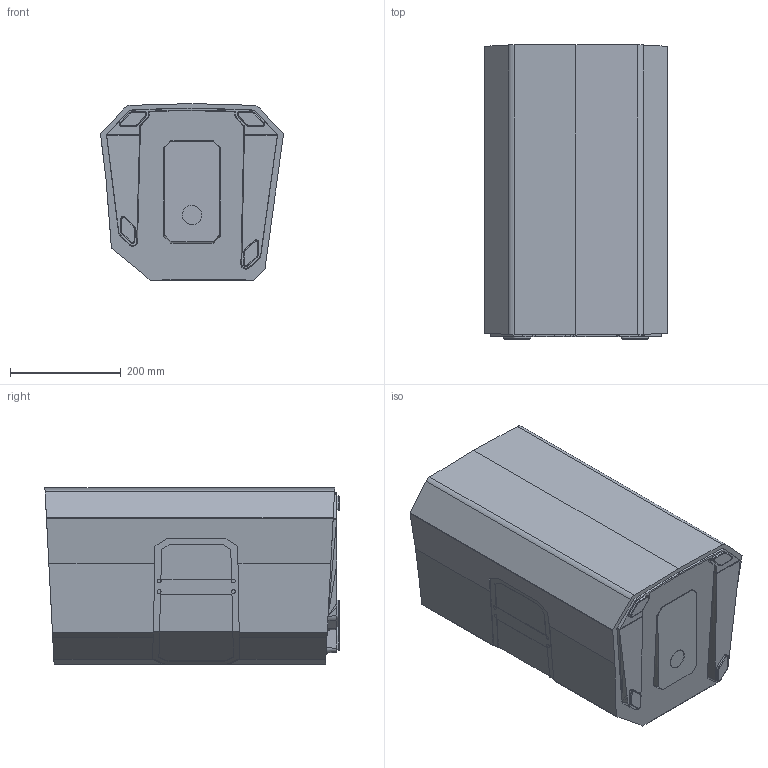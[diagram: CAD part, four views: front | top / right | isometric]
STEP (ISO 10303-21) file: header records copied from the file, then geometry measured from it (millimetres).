
FILE_DESCRIPTION (( 'STEP AP214' ), '1' );
FILE_NAME ('ELX200-10 3D CAD.STEP', '2022-01-05T17:26:05', ( '' ), ( '' ), 'SwSTEP 2.0', 'SolidWorks 2021', '' );
FILE_SCHEMA (( 'AUTOMOTIVE_DESIGN' ));
Length unit declared in the file: millimetre
Products named in the file (1): ELX200-10 3D CAD
Bounding box: 329.94 x 530.92 x 319 mm (x, y, z)
Volume: 46653227.3 mm3; surface area: 781552.4 mm2
Topology: 1 solids, 1 shells, 321 faces, 853 edges, 545 vertices
Faces by surface type: plane 158, bspline 87, cylinder 36, torus 20, cone 20
Entity records: 11041 total; most frequent: CARTESIAN_POINT 3613, ORIENTED_EDGE 1678, DIRECTION 1296, EDGE_CURVE 839, VECTOR 564, LINE 564, VERTEX_POINT 545, AXIS2_PLACEMENT_3D 366
